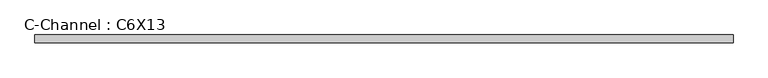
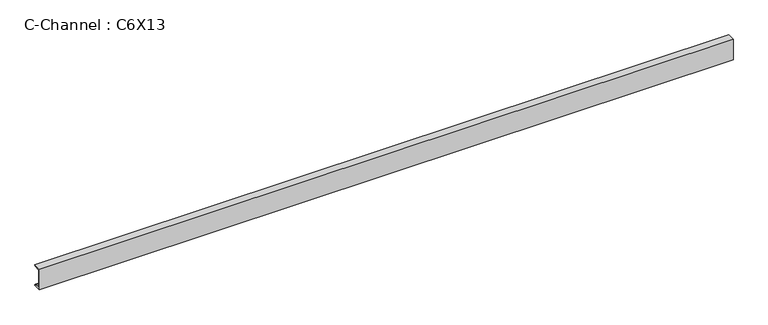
"""IFC4 building model written with IfcOpenShell, lengths in millimetres: beam geometry, C-Channel : C6X13."""

import ifcopenshell
import ifcopenshell.guid

model = None  # the IFC model being written
_history = None  # IfcOwnerHistory: only IFC2X3 demands one
_inside = {}  # id of a spatial element -> (the spatial element, [elements in it])
_under = {}  # id of a project, library or spatial element -> (it, [spatial elements below it])
_declared = {}  # id of a project -> (the project, [libraries it declares])
_typed = {}  # id of a type object -> (the type object, [elements of that type])
_made_of = {}  # id of a material, layer set ... -> (it, [elements and type objects made of it])


def new_model(schema):
    """Start an empty IFC model of exactly this schema.

    Asked for "IFC4X3", IfcOpenShell would pick the latest addendum, in which some entities
    have other attributes; the version numbers below select the first issue.
    IFC2X3 requires an IfcOwnerHistory on every rooted entity: one is made here for all.
    """
    global model, _history
    if schema == "IFC4X3":
        model = ifcopenshell.file(schema_version=(4, 3, 0, 0))
    else:
        model = ifcopenshell.file(schema=schema)
    _inside.clear()
    _under.clear()
    _declared.clear()
    _typed.clear()
    _made_of.clear()
    _history = None
    if model.schema == "IFC2X3":
        org = make("IfcOrganization", Name="unknown")
        user = make(
            "IfcPersonAndOrganization",
            ThePerson=make("IfcPerson", FamilyName="unknown"),
            TheOrganization=org,
        )
        app = make(
            "IfcApplication",
            ApplicationDeveloper=org,
            Version="unknown",
            ApplicationFullName="unknown",
            ApplicationIdentifier="unknown",
        )
        _history = make(
            "IfcOwnerHistory",
            OwningUser=user,
            OwningApplication=app,
            ChangeAction="ADDED",
            CreationDate=0,
        )
    return model


def make(cls, **values):
    """One entity of the class cls with the attributes given. An attribute that is None is left unset."""
    return model.create_entity(
        cls, **{name: value for name, value in values.items() if value is not None}
    )


def rooted(cls, **values):
    """An entity with a GlobalId (a new one), such as an element, a storey or a relation."""
    return make(cls, GlobalId=ifcopenshell.guid.new(), OwnerHistory=_history, **values)


def si_unit(unit_type, name, prefix=None):
    """IfcSIUnit, for example si_unit("LENGTHUNIT", "METRE", prefix="MILLI")."""
    return make("IfcSIUnit", UnitType=unit_type, Prefix=prefix, Name=name)


def assignment(units):
    """IfcUnitAssignment: the units of a project."""
    return None if units is None else make("IfcUnitAssignment", Units=units)


def point(xyz):
    """IfcCartesianPoint."""
    return None if xyz is None else make("IfcCartesianPoint", Coordinates=xyz)


def direction(xyz):
    """IfcDirection."""
    return None if xyz is None else make("IfcDirection", DirectionRatios=xyz)


def frame(location, z_axis=None, x_axis=None):
    """IfcAxis2Placement3D, a coordinate frame: its origin and axes. An axis left out is left unset."""
    return make(
        "IfcAxis2Placement3D",
        Location=point(location),
        Axis=direction(z_axis),
        RefDirection=direction(x_axis),
    )


def frame_2d(location, x_axis=None):
    """IfcAxis2Placement2D, a coordinate frame in the plane: its origin and x axis."""
    return make(
        "IfcAxis2Placement2D", Location=point(location), RefDirection=direction(x_axis)
    )


def origin():
    """The frame at (0, 0, 0) with its axes left unset."""
    return frame((0.0, 0.0, 0.0))


def place(relative_to, where):
    """IfcLocalPlacement: puts the frame where relative to a parent placement (None: the world)."""
    return make(
        "IfcLocalPlacement", PlacementRelTo=relative_to, RelativePlacement=where
    )


def context(
    kind, dimensions, precision=None, world=None, true_north=None, identifier=None
):
    """IfcGeometricRepresentationContext, for example the 3D "Model" context."""
    return make(
        "IfcGeometricRepresentationContext",
        ContextIdentifier=identifier,
        ContextType=kind,
        CoordinateSpaceDimension=dimensions,
        Precision=precision,
        WorldCoordinateSystem=world,
        TrueNorth=true_north,
    )


def project(units=None, contexts=None):
    """IfcProject with its units and contexts."""
    return rooted(
        "IfcProject",
        Name="project",
        RepresentationContexts=contexts,
        UnitsInContext=assignment(units),
    )


def spatial(cls, under=None, at=None, **own):
    """A site, building, storey or space (cls), placed at a placement, below another one or the project."""
    s = rooted(cls, ObjectPlacement=at, **own)
    if under is not None:
        _under.setdefault(under.id(), (under, []))[1].append(s)
    return s


def polyline(points):
    """IfcPolyline through the points."""
    return make("IfcPolyline", Points=[point(p) for p in points])


def circle_curve(where, radius):
    """IfcCircle in the frame where."""
    return make("IfcCircle", Position=where, Radius=radius)


def trimmed(basis, trim1, trim2, sense, master):
    """IfcTrimmedCurve: the piece of a basis curve between two trims."""
    return make(
        "IfcTrimmedCurve",
        BasisCurve=basis,
        Trim1=trim1,
        Trim2=trim2,
        SenseAgreement=sense,
        MasterRepresentation=master,
    )


def segment(curve, same_sense, transition):
    """IfcCompositeCurveSegment."""
    return make(
        "IfcCompositeCurveSegment",
        Transition=transition,
        SameSense=same_sense,
        ParentCurve=curve,
    )


def composite_curve(segments, self_intersect=None):
    """IfcCompositeCurve: segments joined end to end."""
    return make("IfcCompositeCurve", Segments=segments, SelfIntersect=self_intersect)


def outline(outer, holes=None, kind="AREA"):
    """IfcArbitraryClosedProfileDef: a profile drawn as a closed curve; with holes, ...WithVoids."""
    if holes is None:
        return make("IfcArbitraryClosedProfileDef", ProfileType=kind, OuterCurve=outer)
    return make(
        "IfcArbitraryProfileDefWithVoids",
        ProfileType=kind,
        OuterCurve=outer,
        InnerCurves=holes,
    )


def extrude(swept, where, along, depth):
    """IfcExtrudedAreaSolid: the profile swept, set in the frame where, extruded along a direction by depth."""
    return make(
        "IfcExtrudedAreaSolid",
        SweptArea=swept,
        Position=where,
        ExtrudedDirection=direction(along),
        Depth=depth,
    )


def shape(context_of_items, identifier, shape_type, items):
    """IfcShapeRepresentation: the items that make up one representation, for example the "Body"."""
    return make(
        "IfcShapeRepresentation",
        ContextOfItems=context_of_items,
        RepresentationIdentifier=identifier,
        RepresentationType=shape_type,
        Items=items,
    )


def source(mapping_origin, context_of_items, identifier, shape_type, items):
    """IfcRepresentationMap: a shape defined once, which mapped items show again and again."""
    return make(
        "IfcRepresentationMap",
        MappingOrigin=mapping_origin,
        MappedRepresentation=shape(context_of_items, identifier, shape_type, items),
    )


def transform(
    local_origin,
    x_axis=None,
    y_axis=None,
    z_axis=None,
    scale=None,
    scale2=None,
    scale3=None,
    uniform=True,
):
    """IfcCartesianTransformationOperator3D, or its non-uniform kind. x_axis, y_axis, z_axis: its Axis1, 2, 3."""
    if uniform:
        return make(
            "IfcCartesianTransformationOperator3D",
            Axis1=direction(x_axis),
            Axis2=direction(y_axis),
            LocalOrigin=point(local_origin),
            Scale=scale,
            Axis3=direction(z_axis),
        )
    return make(
        "IfcCartesianTransformationOperator3DnonUniform",
        Axis1=direction(x_axis),
        Axis2=direction(y_axis),
        LocalOrigin=point(local_origin),
        Scale=scale,
        Axis3=direction(z_axis),
        Scale2=scale2,
        Scale3=scale3,
    )


def mapped(mapping_source, mapping_target):
    """IfcMappedItem: shows the shape of a source again, moved by a transform."""
    return make(
        "IfcMappedItem", MappingSource=mapping_source, MappingTarget=mapping_target
    )


def made_of(thing, what):
    """Note that an element or type object is made of a material, layer set ...; save() writes the relation."""
    if what is not None:
        _made_of.setdefault(what.id(), (what, []))[1].append(thing)
    return thing


def element(
    cls,
    number,
    at=None,
    inside=None,
    cuts=None,
    type_object=None,
    material=None,
    context=None,
    identifier="Body",
    shape_type=None,
    held_by="IfcProductDefinitionShape",
    body=None,
    shapes=None,
    **own,
):
    """One element of the class cls, such as IfcWall. Its Tag is "e" and its number.

    at: its placement. inside: the storey or other place that contains it. cuts: it is an
    opening in that element (IfcRelVoidsElement). A single representation is given by context,
    identifier, shape_type and body (its items); several are given by shapes. held_by: the class
    of the entity that holds the representations. save() writes the other relations.
    """
    e = rooted(cls, Tag="e%d" % number, ObjectPlacement=at, **own)
    if body is not None:
        shapes = [shape(context, identifier, shape_type, body)]
    if shapes is not None:
        e.Representation = make(held_by, Representations=shapes)
    if inside is not None:
        _inside.setdefault(inside.id(), (inside, []))[1].append(e)
    if cuts is not None:
        rooted(
            "IfcRelVoidsElement", RelatingBuildingElement=cuts, RelatedOpeningElement=e
        )
    if type_object is not None:
        _typed.setdefault(type_object.id(), (type_object, []))[1].append(e)
    return made_of(e, material)


def aggregate(whole, parts):
    """IfcRelAggregates: a whole, such as a stair, and the parts it consists of."""
    return rooted("IfcRelAggregates", RelatingObject=whole, RelatedObjects=parts)


def save(model, path):
    """Write the relations noted so far, then the file.

    IfcRelAggregates (storeys below a building ...), IfcRelContainedInSpatialStructure (elements
    in a storey), IfcRelDefinesByType, IfcRelAssociatesMaterial and IfcRelDeclares: one each for
    every whole, place, type object, material and project.
    """
    for whole, parts in _under.values():
        aggregate(whole, parts)
    for where, things in _inside.values():
        rooted(
            "IfcRelContainedInSpatialStructure",
            RelatedElements=things,
            RelatingStructure=where,
        )
    for kind, things in _typed.values():
        rooted("IfcRelDefinesByType", RelatedObjects=things, RelatingType=kind)
    for what, things in _made_of.values():
        rooted("IfcRelAssociatesMaterial", RelatedObjects=things, RelatingMaterial=what)
    for by, libraries in _declared.values():
        rooted("IfcRelDeclares", RelatingContext=by, RelatedDefinitions=libraries)
    model.write(path)


def c_channel_c6x13_7867c91a(model_context):
    return source(origin(), model_context, "Body", "SweptSolid", [
        extrude(outline(composite_curve([segment(polyline([(-13.0556, 76.2), (41.8084, 76.2)]), True, "CONTINUOUS"), segment(trimmed(circle_curve(frame_2d((33.0962, 76.2)), 8.7122), [point((41.8084, 76.2))], [point((33.0962, 67.4878))], False, "CARTESIAN"), True, "CONTINUOUS"), segment(polyline([(33.0962, 67.4878), (-1.9558, 61.9361086), (-1.9558, -61.9361086), (33.0962, -67.4878)]), True, "CONTINUOUS"), segment(trimmed(circle_curve(frame_2d((33.0962, -76.2)), 8.7122), [point((33.0962, -67.4878))], [point((41.8084, -76.2))], False, "CARTESIAN"), True, "CONTINUOUS"), segment(polyline([(41.8084, -76.2), (-13.0556, -76.2), (-13.0556, 76.2)]), True, "CONTINUOUS")], self_intersect=False)), frame((-2434.3170596, 0.0, 0.0), z_axis=(1.0, 0.0, 0.0), x_axis=(0.0, 1.0, 0.0)), (0.0, 0.0, 1.0), 4868.6342098),
    ])


if __name__ == "__main__":
    model = new_model("IFC4")
    model_context = context("Model", 3, world=origin())
    ifc_project = project(units=[si_unit("LENGTHUNIT", "METRE", prefix="MILLI")], contexts=[model_context])
    site = spatial("IfcSite", under=ifc_project)
    building = spatial("IfcBuilding", under=site)
    placement = place(None, origin())
    c_channel_c6x13_shape = c_channel_c6x13_7867c91a(model_context)
    element("IfcBeam", 1, ObjectType="C-Channel : C6X13", at=placement, inside=building, context=model_context, shape_type="MappedRepresentation", body=[
        mapped(c_channel_c6x13_shape, transform((0.0, 0.0, 0.0), x_axis=(1.0, 0.0, 0.0), y_axis=(0.0, 1.0, 0.0), z_axis=(0.0, 0.0, 1.0))),
    ])
    save(model, "model.ifc")
